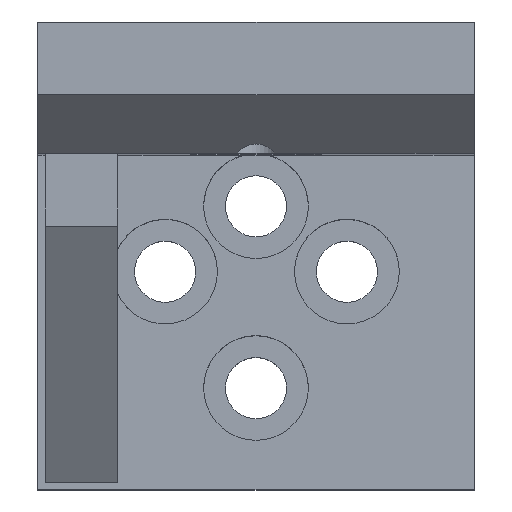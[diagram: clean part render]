
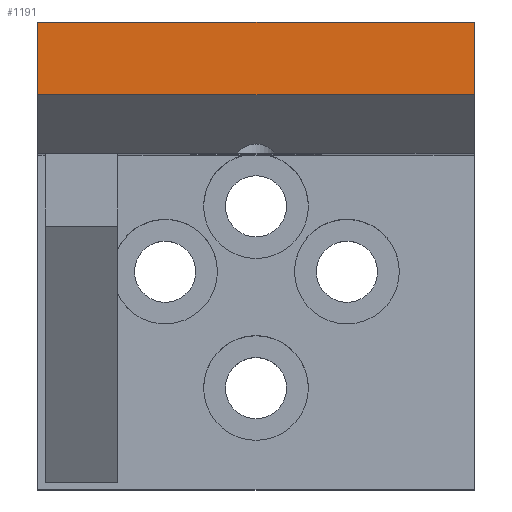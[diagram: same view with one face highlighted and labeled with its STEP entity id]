
A CAD part, top view. The second image highlights one B-rep face of the part: STEP entity #1191.
In plain terms, the highlighted planar face has unit normal (0, 0, 1).
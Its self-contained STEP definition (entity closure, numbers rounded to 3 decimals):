
#1084 = VERTEX_POINT ( 'NONE', #5240 ) ;
#1086 = EDGE_CURVE ( 'NONE', #1087, #1084, #5235, .T. ) ;
#1087 = VERTEX_POINT ( 'NONE', #5231 ) ;
#1157 = VERTEX_POINT ( 'NONE', #5319 ) ;
#1160 = EDGE_CURVE ( 'NONE', #1084, #1157, #5317, .T. ) ;
#1185 = EDGE_CURVE ( 'NONE', #1186, #1087, #5360, .T. ) ;
#1186 = VERTEX_POINT ( 'NONE', #5356 ) ;
#1191 = ADVANCED_FACE ( 'NONE', ( #5351 ), #5350, .T. ) ;
#1192 = EDGE_LOOP ( 'NONE', ( #1245, #1247, #1248, #1249 ) ) ;
#1245 = ORIENTED_EDGE ( 'NONE', *, *, #1246, .F. ) ;
#1246 = EDGE_CURVE ( 'NONE', #1186, #1157, #5395, .T. ) ;
#1247 = ORIENTED_EDGE ( 'NONE', *, *, #1185, .T. ) ;
#1248 = ORIENTED_EDGE ( 'NONE', *, *, #1086, .T. ) ;
#1249 = ORIENTED_EDGE ( 'NONE', *, *, #1160, .T. ) ;
#5231 = CARTESIAN_POINT ( 'NONE',  ( 0., 27., 100. ) ) ;
#5232 = DIRECTION ( 'NONE',  ( 1., 0., 0. ) ) ;
#5233 = VECTOR ( 'NONE', #5232, 1000. ) ;
#5234 = CARTESIAN_POINT ( 'NONE',  ( 30., 27., 100. ) ) ;
#5235 = LINE ( 'NONE', #5234, #5233 ) ;
#5240 = CARTESIAN_POINT ( 'NONE',  ( 30., 27., 100. ) ) ;
#5314 = DIRECTION ( 'NONE',  ( 0., 1., 0. ) ) ;
#5315 = VECTOR ( 'NONE', #5314, 1000. ) ;
#5316 = CARTESIAN_POINT ( 'NONE',  ( 30., 23., 100. ) ) ;
#5317 = LINE ( 'NONE', #5316, #5315 ) ;
#5319 = CARTESIAN_POINT ( 'NONE',  ( 30., 32., 100. ) ) ;
#5346 = DIRECTION ( 'NONE',  ( 0., -1., 0. ) ) ;
#5347 = DIRECTION ( 'NONE',  ( 0., 0., 1. ) ) ;
#5348 = CARTESIAN_POINT ( 'NONE',  ( 30., 23., 100. ) ) ;
#5349 = AXIS2_PLACEMENT_3D ( 'NONE', #5348, #5347, #5346 ) ;
#5350 = PLANE ( 'NONE',  #5349 ) ;
#5351 = FACE_OUTER_BOUND ( 'NONE', #1192, .T. ) ;
#5356 = CARTESIAN_POINT ( 'NONE',  ( 0., 32., 100. ) ) ;
#5357 = DIRECTION ( 'NONE',  ( 0., -1., 0. ) ) ;
#5358 = VECTOR ( 'NONE', #5357, 1000. ) ;
#5359 = CARTESIAN_POINT ( 'NONE',  ( 0., 23., 100. ) ) ;
#5360 = LINE ( 'NONE', #5359, #5358 ) ;
#5392 = DIRECTION ( 'NONE',  ( 1., 0., 0. ) ) ;
#5393 = VECTOR ( 'NONE', #5392, 1000. ) ;
#5394 = CARTESIAN_POINT ( 'NONE',  ( 15., 32., 100. ) ) ;
#5395 = LINE ( 'NONE', #5394, #5393 ) ;
